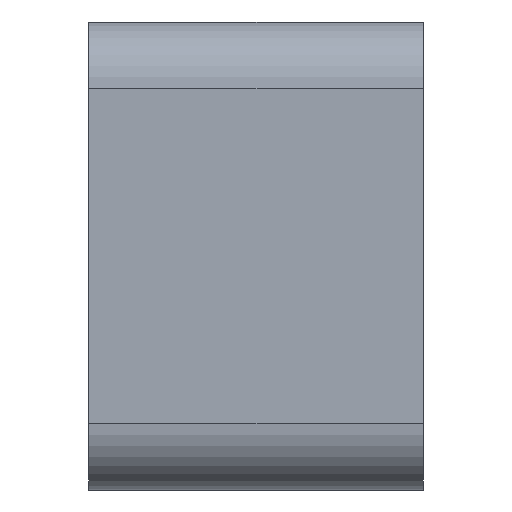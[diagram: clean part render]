
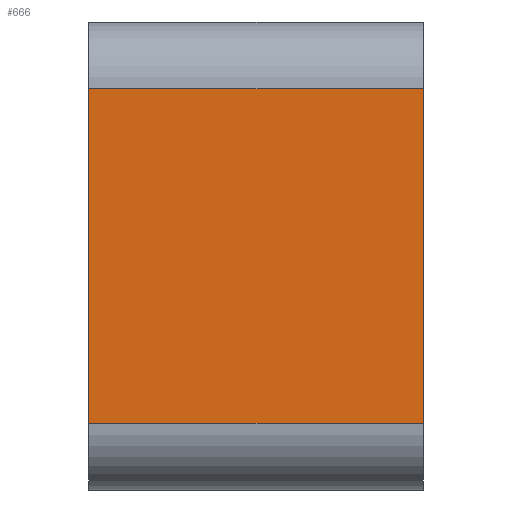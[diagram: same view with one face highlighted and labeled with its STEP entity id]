
A CAD part, left-side view. The second image highlights one B-rep face of the part: STEP entity #666.
In plain terms, the highlighted planar face has unit normal (-1, 0, 0).
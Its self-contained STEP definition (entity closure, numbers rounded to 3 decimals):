
#666=ADVANCED_FACE('',(#1329),#1330,.T.);
#1329=FACE_OUTER_BOUND('',#1990,.T.);
#1330=PLANE('',#1991);
#1990=EDGE_LOOP('',(#3845,#3846,#3847,#3848));
#1991=AXIS2_PLACEMENT_3D('',#3849,#3850,#3851);
#3845=ORIENTED_EDGE('',*,*,#4904,.T.);
#3846=ORIENTED_EDGE('',*,*,#4905,.F.);
#3847=ORIENTED_EDGE('',*,*,#4240,.F.);
#3848=ORIENTED_EDGE('',*,*,#4902,.T.);
#3849=CARTESIAN_POINT('',(-120.0,10.0,0.0));
#3850=DIRECTION('',(-1.0,0.0,0.0));
#3851=DIRECTION('',(0.0,0.0,-1.0));
#4240=EDGE_CURVE('',#5143,#5145,#5146,.T.);
#4902=EDGE_CURVE('',#5143,#6137,#6139,.T.);
#4904=EDGE_CURVE('',#6137,#6141,#6142,.T.);
#4905=EDGE_CURVE('',#5145,#6141,#6143,.T.);
#5143=VERTEX_POINT('',#6431);
#5145=VERTEX_POINT('',#6433);
#5146=LINE('',#6434,#6435);
#6137=VERTEX_POINT('',#7717);
#6139=LINE('',#7719,#7720);
#6141=VERTEX_POINT('',#7722);
#6142=LINE('',#7723,#7724);
#6143=LINE('',#7725,#7726);
#6431=CARTESIAN_POINT('',(-120.0,10.0,-10.0));
#6433=CARTESIAN_POINT('',(-120.0,10.0,10.0));
#6434=CARTESIAN_POINT('',(-120.0,10.0,-10.0));
#6435=VECTOR('',#7983,1.0);
#7717=CARTESIAN_POINT('',(-120.0,-10.0,-10.0));
#7719=CARTESIAN_POINT('',(-120.0,10.0,-10.0));
#7720=VECTOR('',#8890,1.0);
#7722=CARTESIAN_POINT('',(-120.0,-10.0,10.0));
#7723=CARTESIAN_POINT('',(-120.0,-10.0,-10.0));
#7724=VECTOR('',#8891,1.0);
#7725=CARTESIAN_POINT('',(-120.0,10.0,10.0));
#7726=VECTOR('',#8892,1.0);
#7983=DIRECTION('',(-0.0,0.0,1.0));
#8890=DIRECTION('',(0.0,-1.0,0.0));
#8891=DIRECTION('',(-0.0,0.0,1.0));
#8892=DIRECTION('',(0.0,-1.0,0.0));
